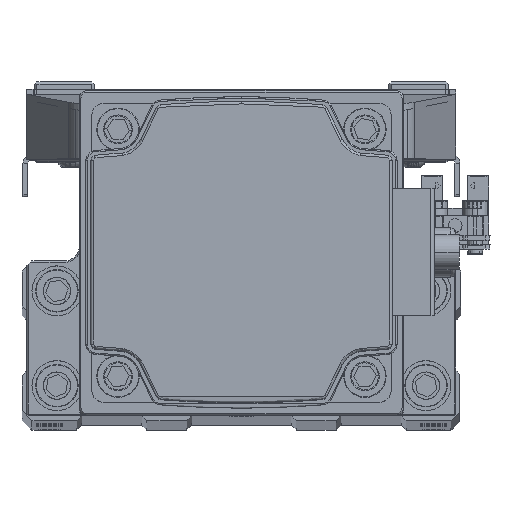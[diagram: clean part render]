
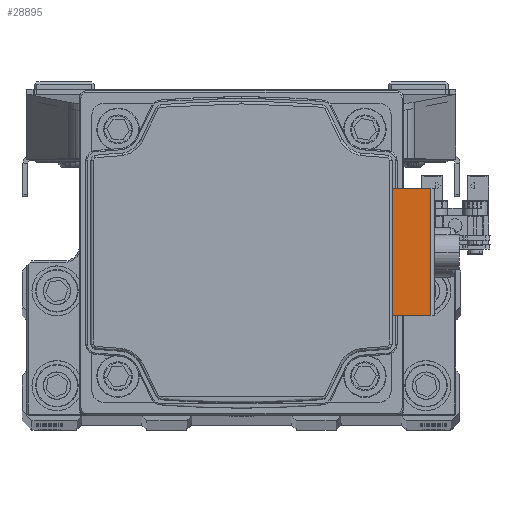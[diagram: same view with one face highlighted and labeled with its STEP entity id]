
A CAD part, top view. The second image highlights one B-rep face of the part: STEP entity #28895.
In plain terms, the highlighted planar face has unit normal (0, 0, 1) as drawn and (0, 0, -1) by its records, which use the part's own axes.
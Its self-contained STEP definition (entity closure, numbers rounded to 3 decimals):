
#865 = EDGE_CURVE ( 'NONE', #38351, #15042, #28696, .T. ) ;
#1582 = VERTEX_POINT ( 'NONE', #7956 ) ;
#3416 = VECTOR ( 'NONE', #3542, 1000. ) ;
#3542 = DIRECTION ( 'NONE',  ( 1., 0., 0. ) ) ;
#7619 = CARTESIAN_POINT ( 'NONE',  ( 0., 37.9, -88.696 ) ) ;
#7783 = LINE ( 'NONE', #23338, #31288 ) ;
#7956 = CARTESIAN_POINT ( 'NONE',  ( 12.75, 37.9, -88.696 ) ) ;
#9343 = DIRECTION ( 'NONE',  ( 0., 1., 0. ) ) ;
#10746 = CARTESIAN_POINT ( 'NONE',  ( 12.75, 33.991, -88.696 ) ) ;
#13613 = EDGE_CURVE ( 'NONE', #36146, #1582, #45654, .T. ) ;
#15042 = VERTEX_POINT ( 'NONE', #49048 ) ;
#19237 = ORIENTED_EDGE ( 'NONE', *, *, #13613, .F. ) ;
#19330 = VECTOR ( 'NONE', #9343, 1000. ) ;
#20855 = ORIENTED_EDGE ( 'NONE', *, *, #24905, .F. ) ;
#22940 = LINE ( 'NONE', #38486, #3416 ) ;
#23177 = DIRECTION ( 'NONE',  ( 0., 0., -1. ) ) ;
#23338 = CARTESIAN_POINT ( 'NONE',  ( 18.438, 30.2, -88.696 ) ) ;
#24897 = CARTESIAN_POINT ( 'NONE',  ( 12.75, 30.2, -88.696 ) ) ;
#24905 = EDGE_CURVE ( 'NONE', #38351, #36146, #7783, .T. ) ;
#26282 = DIRECTION ( 'NONE',  ( 0., 1., 0. ) ) ;
#26988 = FACE_OUTER_BOUND ( 'NONE', #28555, .T. ) ;
#28168 = ORIENTED_EDGE ( 'NONE', *, *, #40515, .T. ) ;
#28555 = EDGE_LOOP ( 'NONE', ( #37277, #28168, #19237, #20855 ) ) ;
#28696 = LINE ( 'NONE', #44256, #19330 ) ;
#28895 = ADVANCED_FACE ( 'NONE', ( #26988 ), #42538, .T. ) ;
#30738 = AXIS2_PLACEMENT_3D ( 'NONE', #7619, #23177, #38713 ) ;
#31288 = VECTOR ( 'NONE', #38882, 1000. ) ;
#36146 = VERTEX_POINT ( 'NONE', #24897 ) ;
#37277 = ORIENTED_EDGE ( 'NONE', *, *, #865, .T. ) ;
#38351 = VERTEX_POINT ( 'NONE', #45406 ) ;
#38486 = CARTESIAN_POINT ( 'NONE',  ( 0., 37.9, -88.696 ) ) ;
#38713 = DIRECTION ( 'NONE',  ( -1., 0., 0. ) ) ;
#38882 = DIRECTION ( 'NONE',  ( 1., 0., 0. ) ) ;
#40515 = EDGE_CURVE ( 'NONE', #15042, #1582, #22940, .T. ) ;
#42538 = PLANE ( 'NONE',  #30738 ) ;
#44256 = CARTESIAN_POINT ( 'NONE',  ( -12.75, 37.9, -88.696 ) ) ;
#45406 = CARTESIAN_POINT ( 'NONE',  ( -12.75, 30.2, -88.696 ) ) ;
#45654 = LINE ( 'NONE', #10746, #47840 ) ;
#47840 = VECTOR ( 'NONE', #26282, 1000. ) ;
#49048 = CARTESIAN_POINT ( 'NONE',  ( -12.75, 37.9, -88.696 ) ) ;
